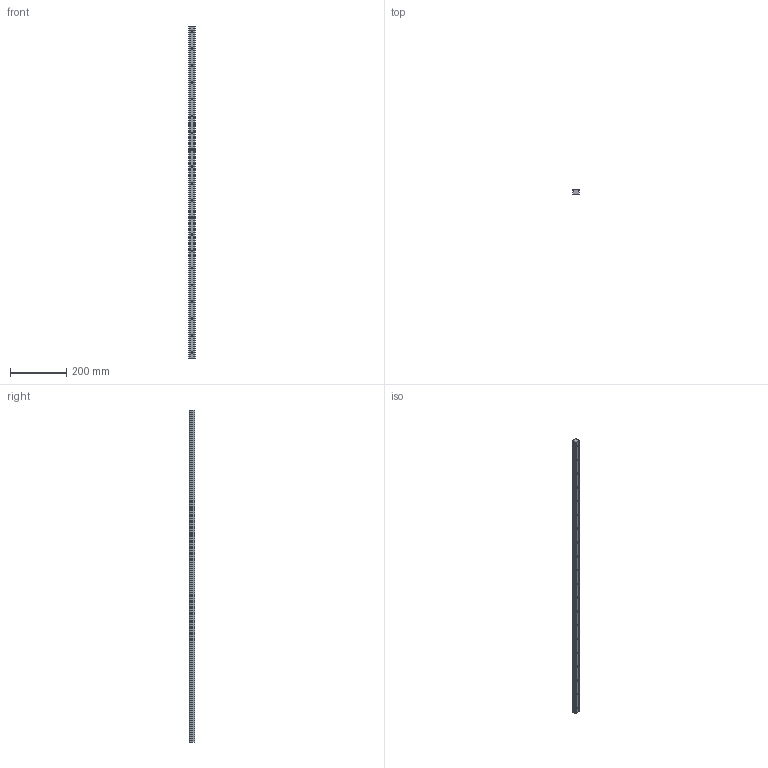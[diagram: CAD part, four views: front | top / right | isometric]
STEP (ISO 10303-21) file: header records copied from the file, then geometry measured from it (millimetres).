
FILE_DESCRIPTION (( 'STEP AP203' ), '1' );
FILE_NAME ('L1016.BRF25-1180.step', '2019-06-13T08:37:19', ( '' ), ( '' ), 'SwSTEP 2.0', 'SolidWorks 2017', '' );
FILE_SCHEMA (( 'CONFIG_CONTROL_DESIGN' ));
Length unit declared in the file: millimetre
Products named in the file (1): L1016.BRF25-1180
Bounding box: 23 x 19.2 x 1180 mm (x, y, z)
Volume: 450447.3 mm3; surface area: 109110.7 mm2
Topology: 1 solids, 1 shells, 166 faces, 392 edges, 228 vertices
Faces by surface type: cylinder 84, plane 42, cone 40
Entity records: 4581 total; most frequent: DIRECTION 854, CARTESIAN_POINT 747, ORIENTED_EDGE 704, EDGE_CURVE 352, AXIS2_PLACEMENT_3D 335, VERTEX_POINT 228, EDGE_LOOP 206, VECTOR 184
